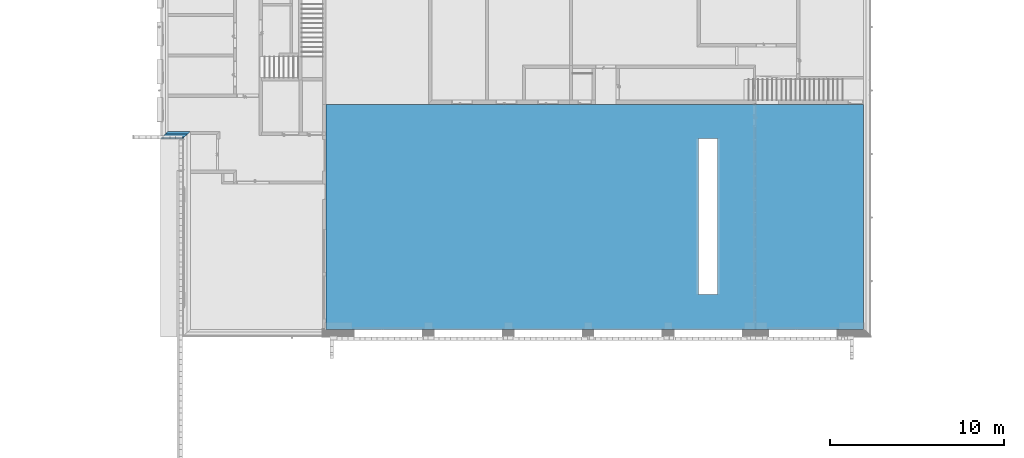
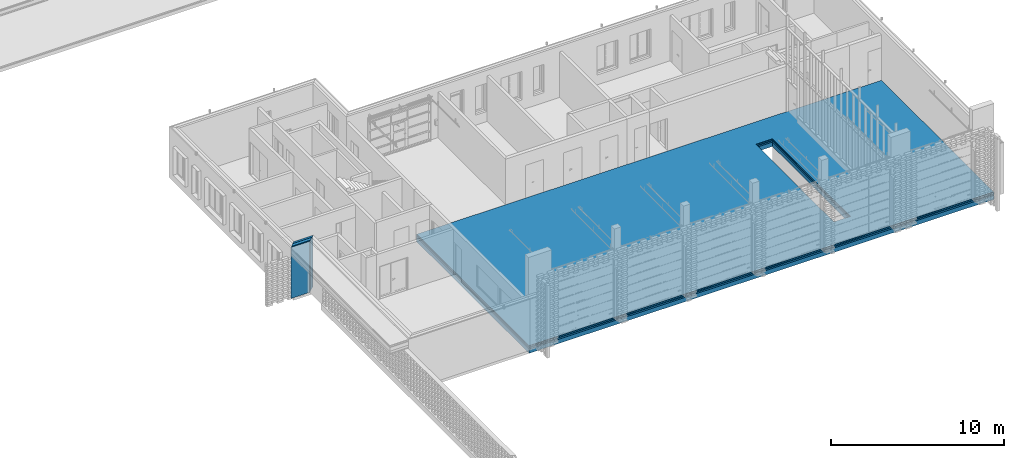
# One storey, part 14 of 62: 8 building element parts, 1 opening, 2 elements without a shape of their own.
"""IFC2X3 building model written with IfcOpenShell, lengths in millimetres."""

import ifcopenshell
import ifcopenshell.guid

model = None  # the IFC model being written
_history = None  # IfcOwnerHistory: only IFC2X3 demands one
_inside = {}  # id of a spatial element -> (the spatial element, [elements in it])
_under = {}  # id of a project, library or spatial element -> (it, [spatial elements below it])
_declared = {}  # id of a project -> (the project, [libraries it declares])
_typed = {}  # id of a type object -> (the type object, [elements of that type])
_made_of = {}  # id of a material, layer set ... -> (it, [elements and type objects made of it])


def new_model(schema):
    """Start an empty IFC model of exactly this schema.

    Asked for "IFC4X3", IfcOpenShell would pick the latest addendum, in which some entities
    have other attributes; the version numbers below select the first issue.
    IFC2X3 requires an IfcOwnerHistory on every rooted entity: one is made here for all.
    """
    global model, _history
    if schema == "IFC4X3":
        model = ifcopenshell.file(schema_version=(4, 3, 0, 0))
    else:
        model = ifcopenshell.file(schema=schema)
    _inside.clear()
    _under.clear()
    _declared.clear()
    _typed.clear()
    _made_of.clear()
    _history = None
    if model.schema == "IFC2X3":
        org = make("IfcOrganization", Name="unknown")
        user = make(
            "IfcPersonAndOrganization",
            ThePerson=make("IfcPerson", FamilyName="unknown"),
            TheOrganization=org,
        )
        app = make(
            "IfcApplication",
            ApplicationDeveloper=org,
            Version="unknown",
            ApplicationFullName="unknown",
            ApplicationIdentifier="unknown",
        )
        _history = make(
            "IfcOwnerHistory",
            OwningUser=user,
            OwningApplication=app,
            ChangeAction="ADDED",
            CreationDate=0,
        )
    return model


def make(cls, **values):
    """One entity of the class cls with the attributes given. An attribute that is None is left unset."""
    return model.create_entity(
        cls, **{name: value for name, value in values.items() if value is not None}
    )


def entity(cls, *values):
    """Any entity or typed value of the class cls, its attributes in the order of the schema. None: left unset."""
    e = model.create_entity(cls)
    for i, value in enumerate(values):
        if value is not None:
            e[i] = value
    return e


def rooted(cls, **values):
    """An entity with a GlobalId (a new one), such as an element, a storey or a relation."""
    return make(cls, GlobalId=ifcopenshell.guid.new(), OwnerHistory=_history, **values)


def si_unit(unit_type, name, prefix=None):
    """IfcSIUnit, for example si_unit("LENGTHUNIT", "METRE", prefix="MILLI")."""
    return make("IfcSIUnit", UnitType=unit_type, Prefix=prefix, Name=name)


def converted_unit(unit_type, name, factor, base, dimensions=None, offset=None):
    """IfcConversionBasedUnit, such as the inch: factor (a typed value) times the base unit."""
    return make(
        "IfcConversionBasedUnit"
        if offset is None
        else "IfcConversionBasedUnitWithOffset",
        ConversionOffset=offset,
        Dimensions=None
        if dimensions is None
        else entity("IfcDimensionalExponents", *dimensions),
        UnitType=unit_type,
        Name=name,
        ConversionFactor=make(
            "IfcMeasureWithUnit", ValueComponent=factor, UnitComponent=base
        ),
    )


def derived_unit(unit_type, elements):
    """IfcDerivedUnit: a product of units, each with its exponent."""
    return make(
        "IfcDerivedUnit",
        Elements=[
            make("IfcDerivedUnitElement", Unit=unit, Exponent=power)
            for unit, power in elements
        ],
        UnitType=unit_type,
    )


def money_unit(currency):
    """IfcMonetaryUnit."""
    return make("IfcMonetaryUnit", Currency=currency)


def assignment(units):
    """IfcUnitAssignment: the units of a project."""
    return None if units is None else make("IfcUnitAssignment", Units=units)


def point(xyz):
    """IfcCartesianPoint."""
    return None if xyz is None else make("IfcCartesianPoint", Coordinates=xyz)


def direction(xyz):
    """IfcDirection."""
    return None if xyz is None else make("IfcDirection", DirectionRatios=xyz)


def frame(location, z_axis=None, x_axis=None):
    """IfcAxis2Placement3D, a coordinate frame: its origin and axes. An axis left out is left unset."""
    return make(
        "IfcAxis2Placement3D",
        Location=point(location),
        Axis=direction(z_axis),
        RefDirection=direction(x_axis),
    )


def origin_with_axes():
    """The frame at (0, 0, 0) with the z axis (0, 0, 1) and the x axis (1, 0, 0) written out."""
    return frame((0.0, 0.0, 0.0), z_axis=(0.0, 0.0, 1.0), x_axis=(1.0, 0.0, 0.0))


def place(relative_to, where):
    """IfcLocalPlacement: puts the frame where relative to a parent placement (None: the world)."""
    return make(
        "IfcLocalPlacement", PlacementRelTo=relative_to, RelativePlacement=where
    )


def context(
    kind, dimensions, precision=None, world=None, true_north=None, identifier=None
):
    """IfcGeometricRepresentationContext, for example the 3D "Model" context."""
    return make(
        "IfcGeometricRepresentationContext",
        ContextIdentifier=identifier,
        ContextType=kind,
        CoordinateSpaceDimension=dimensions,
        Precision=precision,
        WorldCoordinateSystem=world,
        TrueNorth=true_north,
    )


def subcontext(parent, identifier, kind, view, scale=None):
    """IfcGeometricRepresentationSubContext, for example "Body" below "Model"."""
    return make(
        "IfcGeometricRepresentationSubContext",
        ContextIdentifier=identifier,
        ContextType=kind,
        ParentContext=parent,
        TargetScale=scale,
        TargetView=view,
    )


def project(units=None, contexts=None):
    """IfcProject with its units and contexts."""
    return rooted(
        "IfcProject",
        Name="project",
        RepresentationContexts=contexts,
        UnitsInContext=assignment(units),
    )


def spatial(cls, under=None, at=None, **own):
    """A site, building, storey or space (cls), placed at a placement, below another one or the project."""
    s = rooted(cls, ObjectPlacement=at, **own)
    if under is not None:
        _under.setdefault(under.id(), (under, []))[1].append(s)
    return s


def polyline(points):
    """IfcPolyline through the points."""
    return make("IfcPolyline", Points=[point(p) for p in points])


def outline(outer, holes=None, kind="AREA"):
    """IfcArbitraryClosedProfileDef: a profile drawn as a closed curve; with holes, ...WithVoids."""
    if holes is None:
        return make("IfcArbitraryClosedProfileDef", ProfileType=kind, OuterCurve=outer)
    return make(
        "IfcArbitraryProfileDefWithVoids",
        ProfileType=kind,
        OuterCurve=outer,
        InnerCurves=holes,
    )


def extrude(swept, where, along, depth):
    """IfcExtrudedAreaSolid: the profile swept, set in the frame where, extruded along a direction by depth."""
    return make(
        "IfcExtrudedAreaSolid",
        SweptArea=swept,
        Position=where,
        ExtrudedDirection=direction(along),
        Depth=depth,
    )


def shape(context_of_items, identifier, shape_type, items):
    """IfcShapeRepresentation: the items that make up one representation, for example the "Body"."""
    return make(
        "IfcShapeRepresentation",
        ContextOfItems=context_of_items,
        RepresentationIdentifier=identifier,
        RepresentationType=shape_type,
        Items=items,
    )


def material(Name=None, Category=None):
    """IfcMaterial."""
    return make("IfcMaterial", Name=Name, Category=Category)


def made_of(thing, what):
    """Note that an element or type object is made of a material, layer set ...; save() writes the relation."""
    if what is not None:
        _made_of.setdefault(what.id(), (what, []))[1].append(thing)
    return thing


def type_object(cls, material=None, **own):
    """A type object (cls), such as IfcWallType, which elements share."""
    return made_of(rooted(cls, **own), material)


def element(
    cls,
    number,
    at=None,
    inside=None,
    cuts=None,
    type_object=None,
    material=None,
    context=None,
    identifier="Body",
    shape_type=None,
    held_by="IfcProductDefinitionShape",
    body=None,
    shapes=None,
    **own,
):
    """One element of the class cls, such as IfcWall. Its Tag is "e" and its number.

    at: its placement. inside: the storey or other place that contains it. cuts: it is an
    opening in that element (IfcRelVoidsElement). A single representation is given by context,
    identifier, shape_type and body (its items); several are given by shapes. held_by: the class
    of the entity that holds the representations. save() writes the other relations.
    """
    e = rooted(cls, Tag="e%d" % number, ObjectPlacement=at, **own)
    if body is not None:
        shapes = [shape(context, identifier, shape_type, body)]
    if shapes is not None:
        e.Representation = make(held_by, Representations=shapes)
    if inside is not None:
        _inside.setdefault(inside.id(), (inside, []))[1].append(e)
    if cuts is not None:
        rooted(
            "IfcRelVoidsElement", RelatingBuildingElement=cuts, RelatedOpeningElement=e
        )
    if type_object is not None:
        _typed.setdefault(type_object.id(), (type_object, []))[1].append(e)
    return made_of(e, material)


def aggregate(whole, parts):
    """IfcRelAggregates: a whole, such as a stair, and the parts it consists of."""
    return rooted("IfcRelAggregates", RelatingObject=whole, RelatedObjects=parts)


def save(model, path):
    """Write the relations noted so far, then the file.

    IfcRelAggregates (storeys below a building ...), IfcRelContainedInSpatialStructure (elements
    in a storey), IfcRelDefinesByType, IfcRelAssociatesMaterial and IfcRelDeclares: one each for
    every whole, place, type object, material and project.
    """
    for whole, parts in _under.values():
        aggregate(whole, parts)
    for where, things in _inside.values():
        rooted(
            "IfcRelContainedInSpatialStructure",
            RelatedElements=things,
            RelatingStructure=where,
        )
    for kind, things in _typed.values():
        rooted("IfcRelDefinesByType", RelatedObjects=things, RelatingType=kind)
    for what, things in _made_of.values():
        rooted("IfcRelAssociatesMaterial", RelatedObjects=things, RelatingMaterial=what)
    for by, libraries in _declared.values():
        rooted("IfcRelDeclares", RelatingContext=by, RelatedDefinitions=libraries)
    model.write(path)


model = new_model("IFC2X3")

# Units and contexts
model_context = context("Model", 3, precision=0.01, world=origin_with_axes(), true_north=direction((0.0, 1.0)))
body_context = subcontext(model_context, "Body", "Model", "MODEL_VIEW")
ifc_project = project(units=[si_unit("LENGTHUNIT", "METRE", prefix="MILLI"), si_unit("AREAUNIT", "SQUARE_METRE"), si_unit("VOLUMEUNIT", "CUBIC_METRE"), converted_unit("PLANEANGLEUNIT", "DEGREE", entity("IfcPlaneAngleMeasure", 0.0174532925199), si_unit("PLANEANGLEUNIT", "RADIAN"), dimensions=[0, 0, 0, 0, 0, 0, 0]), si_unit("SOLIDANGLEUNIT", "STERADIAN"), money_unit("EUR"), converted_unit("TIMEUNIT", "Year", entity("IfcTimeMeasure", 31556926.0), si_unit("TIMEUNIT", "SECOND"), dimensions=[0, 0, 1, 0, 0, 0, 0]), si_unit("MASSUNIT", "GRAM", prefix="KILO"), si_unit("THERMODYNAMICTEMPERATUREUNIT", "DEGREE_CELSIUS"), si_unit("LUMINOUSINTENSITYUNIT", "LUMEN"), si_unit("ENERGYUNIT", "JOULE", prefix="MEGA"), derived_unit("THERMALCONDUCTANCEUNIT", [(si_unit("POWERUNIT", "WATT"), 1), (si_unit("LENGTHUNIT", "METRE"), -1), (si_unit("THERMODYNAMICTEMPERATUREUNIT", "KELVIN"), -1)]), derived_unit("SPECIFICHEATCAPACITYUNIT", [(si_unit("ENERGYUNIT", "JOULE"), 1), (si_unit("MASSUNIT", "GRAM", prefix="KILO"), -1), (si_unit("THERMODYNAMICTEMPERATUREUNIT", "KELVIN"), -1)]), derived_unit("MASSDENSITYUNIT", [(si_unit("MASSUNIT", "GRAM", prefix="KILO"), 1), (si_unit("VOLUMEUNIT", "CUBIC_METRE"), -1)])], contexts=[model_context])

# Site, building, storey
site_placement = place(None, origin_with_axes())
site = spatial("IfcSite", under=ifc_project, at=site_placement, Name="KIRDE 14, ELVA", CompositionType="ELEMENT")
building_placement = place(site_placement, origin_with_axes())
building = spatial("IfcBuilding", under=site, at=building_placement, Name="PPA ja Päästeameti ühishoone", CompositionType="ELEMENT")
storey_placement = place(building_placement, origin_with_axes())
storey = spatial("IfcBuildingStorey", under=building, at=storey_placement, Name="Esimene korrus", CompositionType="ELEMENT", Elevation=0.0)

# Slab, opening, building element parts
slab_type = type_object("IfcSlabType", Name="P-01 PORAND PINNASEL 535", PredefinedType="BASESLAB")
slab_placement = place(storey_placement, frame((9090.00014048, -0.000104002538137, 0.0), z_axis=(0.0, 0.0, 1.0), x_axis=(1.0, 0.0, 0.0)))
slab = element("IfcSlab", 1, at=slab_placement, inside=storey, type_object=slab_type, Name="PP-02", PredefinedType="BASESLAB")
opening_placement = place(slab_placement, frame((21460.1722595, 11000.0, 0.0), z_axis=(0.0, 0.0, 1.0), x_axis=(0.0, -1.0, 0.0)))
element("IfcOpeningElement", 2, at=opening_placement, cuts=slab, Name="Slab Opening", context=body_context, shape_type="SweptSolid", body=[
    extrude(outline(polyline([(0.0, 0.0), (9000.0, 0.0), (9000.0, 1100.00001353), (0.0, 1100.00001353), (0.0, 0.0)])), frame((0.0, 0.0, -535.0), z_axis=(0.0, 0.0, 1.0), x_axis=(1.0, 0.0, 0.0)), (0.0, 0.0, 1.0), 535.0),
])
ifc_material_1 = material(Name="Vahtpolüstüreen (4)")
building_element_part_1_placement = place(slab_placement, origin_with_axes())
building_element_part_1 = element("IfcBuildingElementPart", 3, at=building_element_part_1_placement, material=ifc_material_1, Name="Vahtpolüstüreen (4)", context=body_context, shape_type="SweptSolid", body=[
    extrude(outline(polyline([(0.0, 0.0), (30954.7047452, 0.0), (30954.7047452, 12960.0006684), (9.09494701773e-10, 12960.0006684), (0.0, 0.0)])), frame((0.0, 0.0, -535.0), z_axis=(0.0, 0.0, 1.0), x_axis=(1.0, 0.0, 0.0)), (0.0, 0.0, 1.0), 300.0),
])
ifc_material_2 = material(Name="Concrete - Cast-in-Place Concrete - C12/15")
building_element_part_2_placement = place(slab_placement, origin_with_axes())
building_element_part_2 = element("IfcBuildingElementPart", 4, at=building_element_part_2_placement, material=ifc_material_2, Name="Concrete - Cast-in-Place Concrete - C12/15", context=body_context, shape_type="SweptSolid", body=[
    extrude(outline(polyline([(0.0, 0.0), (30954.7047452, 0.0), (30954.7047452, 12960.0006684), (9.09494701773e-10, 12960.0006684), (0.0, 0.0)])), frame((0.0, 0.0, -235.0), z_axis=(0.0, 0.0, 1.0), x_axis=(1.0, 0.0, 0.0)), (0.0, 0.0, 1.0), 100.0),
])
ifc_material_3 = material(Name="Mineraalvill")
building_element_part_3_placement = place(slab_placement, origin_with_axes())
building_element_part_3 = element("IfcBuildingElementPart", 5, at=building_element_part_3_placement, material=ifc_material_3, Name="Mineraalvill", context=body_context, shape_type="SweptSolid", body=[
    extrude(outline(polyline([(0.0, 0.0), (30954.7047452, 0.0), (30954.7047452, 12960.0006684), (9.09494701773e-10, 12960.0006684), (0.0, 0.0)])), frame((0.0, 0.0, -135.0), z_axis=(0.0, 0.0, 1.0), x_axis=(1.0, 0.0, 0.0)), (0.0, 0.0, 1.0), 30.0),
])
ifc_material_4 = material(Name="Concrete, Cast In Situ")
building_element_part_4_placement = place(slab_placement, origin_with_axes())
building_element_part_4 = element("IfcBuildingElementPart", 6, at=building_element_part_4_placement, material=ifc_material_4, Name="Concrete, Cast In Situ", context=body_context, shape_type="SweptSolid", body=[
    extrude(outline(polyline([(0.0, 0.0), (30954.7047452, 0.0), (30954.7047452, 12960.0006684), (9.09494701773e-10, 12960.0006684), (0.0, 0.0)])), frame((0.0, 0.0, -105.0), z_axis=(0.0, 0.0, 1.0), x_axis=(1.0, 0.0, 0.0)), (0.0, 0.0, 1.0), 90.0),
])
ifc_material_5 = material(Name="Timber - Floor")
building_element_part_5_placement = place(slab_placement, origin_with_axes())
building_element_part_5 = element("IfcBuildingElementPart", 7, at=building_element_part_5_placement, material=ifc_material_5, Name="Timber - Floor", context=body_context, shape_type="SweptSolid", body=[
    extrude(outline(polyline([(0.0, 0.0), (30954.7047452, 0.0), (30954.7047452, 12960.0006684), (9.09494701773e-10, 12960.0006684), (0.0, 0.0)])), frame((0.0, 0.0, -15.0), z_axis=(0.0, 0.0, 1.0), x_axis=(1.0, 0.0, 0.0)), (0.0, 0.0, 1.0), 15.0),
])
aggregate(slab, [building_element_part_1, building_element_part_2, building_element_part_3, building_element_part_4, building_element_part_5])

# Wall, building element parts
wall_type = type_object("IfcWallType", Name="VS-01 430", PredefinedType="NOTDEFINED")
wall_placement = place(storey_placement, frame((1300.0001437, 11400.396614, 0.0), z_axis=(0.0, 0.0, 1.0), x_axis=(-1.0, 2.9945599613e-07, 0.0)))
wall = element("IfcWall", 8, at=wall_placement, inside=storey, type_object=wall_type, Name="VS-01")
ifc_material_6 = material(Name="Raudbetoon Paneelid (2)")
building_element_part_6_placement = place(wall_placement, origin_with_axes())
building_element_part_6 = element("IfcBuildingElementPart", 9, at=building_element_part_6_placement, material=ifc_material_6, Name="Raudbetoon Paneelid (2)", context=body_context, shape_type="SweptSolid", body=[
    extrude(outline(polyline([(4.65661287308e-07, 0.0), (1300.00013765, 0.0), (1450.00009267, 150.0), (167.441816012, 150.0), (4.65661287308e-07, 0.0)])), origin_with_axes(), (0.0, 0.0, 1.0), 3600.0),
])
building_element_part_7_placement = place(wall_placement, origin_with_axes())
building_element_part_7 = element("IfcBuildingElementPart", 10, at=building_element_part_7_placement, material=ifc_material_1, Name="Vahtpolüstüreen (4)", context=body_context, shape_type="SweptSolid", body=[
    extrude(outline(polyline([(167.441816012, 150.0), (1450.00009267, 150.0), (1650.0000327, 350.0), (390.697570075, 350.0), (167.441816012, 150.0)])), origin_with_axes(), (0.0, 0.0, 1.0), 3600.0),
])
building_element_part_8_placement = place(wall_placement, origin_with_axes())
building_element_part_8 = element("IfcBuildingElementPart", 11, at=building_element_part_8_placement, material=ifc_material_6, Name="Raudbetoon Paneelid (2)", context=body_context, shape_type="SweptSolid", body=[
    extrude(outline(polyline([(390.697570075, 350.0), (1650.0000327, 350.0), (1730.00000872, 430.0), (479.9998717, 430.0), (390.697570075, 350.0)])), origin_with_axes(), (0.0, 0.0, 1.0), 3600.0),
])
aggregate(wall, [building_element_part_6, building_element_part_7, building_element_part_8])

save(model, "model.ifc")
